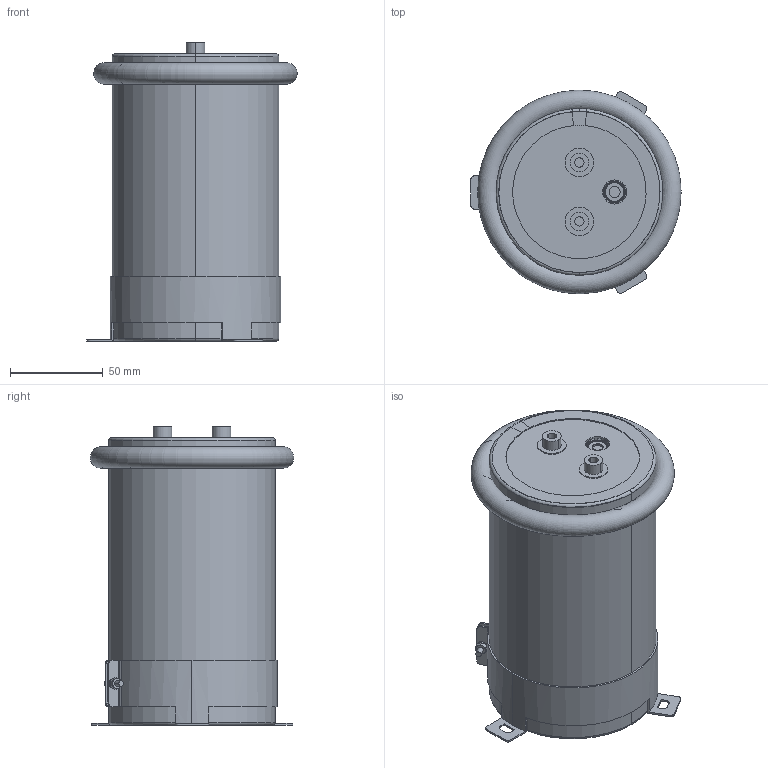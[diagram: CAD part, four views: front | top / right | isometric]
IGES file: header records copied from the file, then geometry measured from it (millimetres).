
Start section: 3D InterOp IGES (v. 2019 1.0.2), Spatial Corp. Copyright (c) 1999-2017.
Global section: file name: 90x155_Screw.igs; native system: Spatial Corp.; preprocessor: 3D InterOp ACIS/IGES; author: Noname; organization: Noname; date: 20220314.175602; units: millimetre
Bounding box: 113.35 x 109.7 x 161 mm (x, y, z)
Volume: 1330755 mm3; surface area: 311531.8 mm2
Topology: 9 solids, 9 shells, 352 faces, 953 edges, 591 vertices
Faces by surface type: plane 112, cylinder 110, torus 90, cone 38, sphere 2
